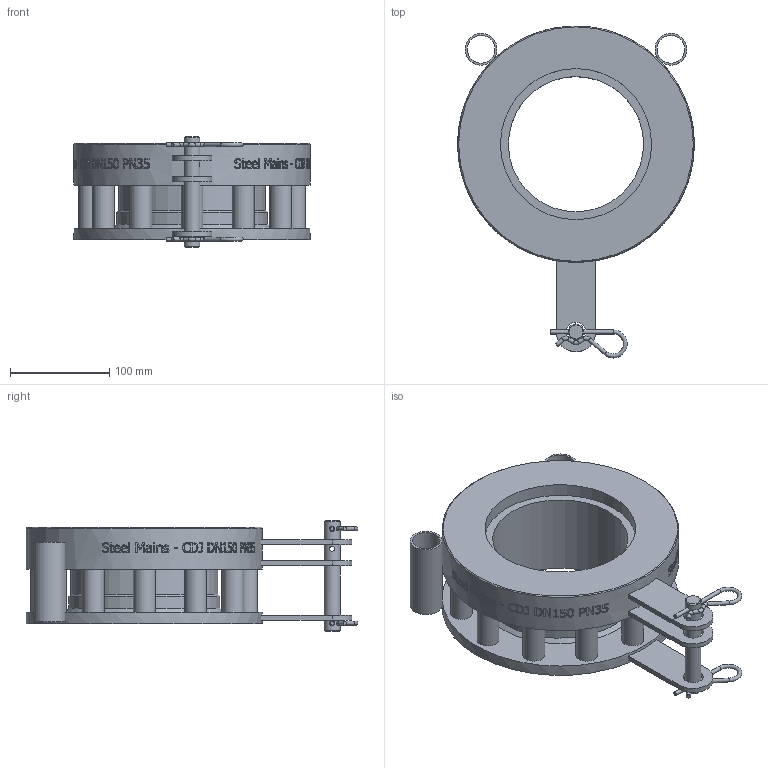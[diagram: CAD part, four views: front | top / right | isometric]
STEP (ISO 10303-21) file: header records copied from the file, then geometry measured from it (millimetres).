
FILE_DESCRIPTION(/* description */ (''),/* implementation_level */ '2;1');
FILE_NAME(/* name */ 'C:\Vault\Designs\Somerton\196\196-28 Models\Marketing Files\SteelMains - CDJ DN150 PN35 - (196-28T rev B).stp',/* time_stamp */ '2025-09-24T16:08:46+10:00',/* author */ ('Sam.Cavallaro'),/* organization */ (''),/* preprocessor_version */ 'ST-DEVELOPER v18.1',/* originating_system */ 'Autodesk Inventor 2021',/* authorisation */ '');
FILE_SCHEMA (('AUTOMOTIVE_DESIGN { 1 0 10303 214 3 1 1 }'));
Length unit declared in the file: millimetre
Products named in the file (1): SPS_ENG-059953
Bounding box: 238 x 334.02 x 111 mm (x, y, z)
Volume: 1992927.9 mm3; surface area: 306058 mm2
Topology: 6 solids, 6 shells, 837 faces, 2282 edges, 1522 vertices
Faces by surface type: bspline 392, plane 327, cylinder 105, torus 8, cone 5
Full cylindrical faces by diameter (mm): 4 x10, 5 x3, 16 x1, 20 x3, 22 x12, 28 x2, 32 x2, 136 x1, 148 x1, 152 x2, 238 x1
Entity records: 36782 total; most frequent: CARTESIAN_POINT 17610, ORIENTED_EDGE 4570, DIRECTION 2784, EDGE_CURVE 2285, VERTEX_POINT 1525, LINE 1074, VECTOR 1074, EDGE_LOOP 944
